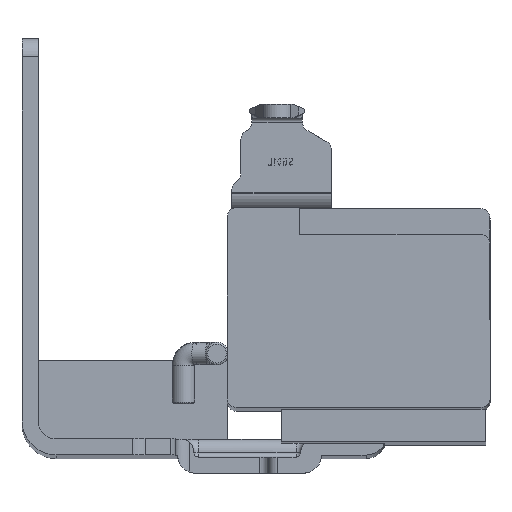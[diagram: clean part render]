
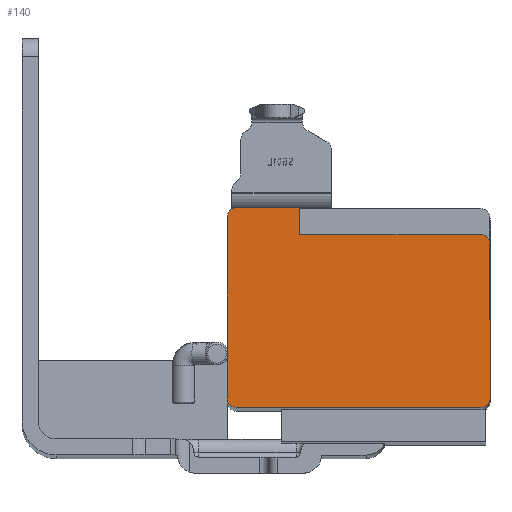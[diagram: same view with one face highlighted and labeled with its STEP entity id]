
A CAD part, top view. The second image highlights one B-rep face of the part: STEP entity #140.
In plain terms, the highlighted planar face has unit normal (0, 0, 1).
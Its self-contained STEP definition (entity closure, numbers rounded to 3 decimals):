
#140 = ADVANCED_FACE ( 'NONE', ( #9531 ), #9857, .T. ) ;
#426 = DIRECTION ( 'NONE',  ( 0., 0., 1. ) ) ;
#500 = EDGE_CURVE ( 'NONE', #1558, #5320, #6891, .T. ) ;
#544 = DIRECTION ( 'NONE',  ( 0., 0., 1. ) ) ;
#662 = VERTEX_POINT ( 'NONE', #3415 ) ;
#1174 = CARTESIAN_POINT ( 'NONE',  ( 30.58, -17.1, 194.3 ) ) ;
#1328 = VERTEX_POINT ( 'NONE', #3452 ) ;
#1558 = VERTEX_POINT ( 'NONE', #7089 ) ;
#1720 = VERTEX_POINT ( 'NONE', #6303 ) ;
#1880 = AXIS2_PLACEMENT_3D ( 'NONE', #8270, #8535, #8629 ) ;
#2007 = DIRECTION ( 'NONE',  ( 1., 0., 0. ) ) ;
#2094 = AXIS2_PLACEMENT_3D ( 'NONE', #9565, #10415, #10454 ) ;
#2095 = ORIENTED_EDGE ( 'NONE', *, *, #500, .T. ) ;
#2223 = VERTEX_POINT ( 'NONE', #2622 ) ;
#2297 = DIRECTION ( 'NONE',  ( 0., -1., 0. ) ) ;
#2393 = CARTESIAN_POINT ( 'NONE',  ( 8.35, 4., 194.3 ) ) ;
#2534 = AXIS2_PLACEMENT_3D ( 'NONE', #5427, #426, #6253 ) ;
#2622 = CARTESIAN_POINT ( 'NONE',  ( 31.58, -17.1, 194.3 ) ) ;
#2658 = AXIS2_PLACEMENT_3D ( 'NONE', #1174, #7021, #2007 ) ;
#2742 = CARTESIAN_POINT ( 'NONE',  ( 30.61, 1., 194.3 ) ) ;
#2754 = ORIENTED_EDGE ( 'NONE', *, *, #6982, .F. ) ;
#2823 = VECTOR ( 'NONE', #6546, 1000. ) ;
#3010 = EDGE_CURVE ( 'NONE', #4626, #1328, #9290, .T. ) ;
#3035 = VERTEX_POINT ( 'NONE', #10027 ) ;
#3415 = CARTESIAN_POINT ( 'NONE',  ( 2.55, 3., 194.3 ) ) ;
#3452 = CARTESIAN_POINT ( 'NONE',  ( 3.55, 4., 194.3 ) ) ;
#3845 = CARTESIAN_POINT ( 'NONE',  ( 10.55, 4., 194.3 ) ) ;
#3877 = LINE ( 'NONE', #7364, #2823 ) ;
#4143 = CARTESIAN_POINT ( 'NONE',  ( 0., -18.1, 194.3 ) ) ;
#4404 = VECTOR ( 'NONE', #5566, 1000. ) ;
#4443 = VERTEX_POINT ( 'NONE', #4728 ) ;
#4446 = EDGE_CURVE ( 'NONE', #662, #3035, #6623, .T. ) ;
#4521 = LINE ( 'NONE', #4143, #9004 ) ;
#4626 = VERTEX_POINT ( 'NONE', #3845 ) ;
#4686 = ORIENTED_EDGE ( 'NONE', *, *, #3010, .T. ) ;
#4710 = AXIS2_PLACEMENT_3D ( 'NONE', #5551, #544, #6382 ) ;
#4728 = CARTESIAN_POINT ( 'NONE',  ( 30.58, -18.1, 194.3 ) ) ;
#5001 = EDGE_CURVE ( 'NONE', #1720, #5320, #7131, .T. ) ;
#5080 = ORIENTED_EDGE ( 'NONE', *, *, #9691, .F. ) ;
#5092 = EDGE_LOOP ( 'NONE', ( #7234, #2754, #5531, #5080, #2095, #8662, #9383, #4686, #10726, #6984 ) ) ;
#5320 = VERTEX_POINT ( 'NONE', #2742 ) ;
#5334 = VERTEX_POINT ( 'NONE', #8655 ) ;
#5365 = LINE ( 'NONE', #5633, #9838 ) ;
#5383 = EDGE_CURVE ( 'NONE', #4443, #2223, #5761, .T. ) ;
#5427 = CARTESIAN_POINT ( 'NONE',  ( 3.55, -17.1, 194.3 ) ) ;
#5531 = ORIENTED_EDGE ( 'NONE', *, *, #5383, .T. ) ;
#5551 = CARTESIAN_POINT ( 'NONE',  ( 3.55, 3., 194.3 ) ) ;
#5566 = DIRECTION ( 'NONE',  ( 0., -1., 0. ) ) ;
#5633 = CARTESIAN_POINT ( 'NONE',  ( 31.58, 0., 194.3 ) ) ;
#5761 = CIRCLE ( 'NONE', #2658, 1. ) ;
#6253 = DIRECTION ( 'NONE',  ( 1., 0., 0. ) ) ;
#6291 = CIRCLE ( 'NONE', #4710, 1. ) ;
#6303 = CARTESIAN_POINT ( 'NONE',  ( 10.55, 1., 194.3 ) ) ;
#6382 = DIRECTION ( 'NONE',  ( 1., 0., 0. ) ) ;
#6542 = DIRECTION ( 'NONE',  ( 1., 0., 0. ) ) ;
#6543 = CIRCLE ( 'NONE', #2534, 1. ) ;
#6546 = DIRECTION ( 'NONE',  ( 0., 1., 0. ) ) ;
#6623 = LINE ( 'NONE', #9744, #4404 ) ;
#6657 = DIRECTION ( 'NONE',  ( -1., 0., 0. ) ) ;
#6879 = VECTOR ( 'NONE', #6542, 1000. ) ;
#6891 = CIRCLE ( 'NONE', #1880, 0.97 ) ;
#6893 = EDGE_CURVE ( 'NONE', #1720, #4626, #3877, .T. ) ;
#6982 = EDGE_CURVE ( 'NONE', #4443, #5334, #4521, .T. ) ;
#6984 = ORIENTED_EDGE ( 'NONE', *, *, #4446, .T. ) ;
#7021 = DIRECTION ( 'NONE',  ( 0., 0., 1. ) ) ;
#7089 = CARTESIAN_POINT ( 'NONE',  ( 31.58, 0.03, 194.3 ) ) ;
#7131 = LINE ( 'NONE', #9933, #6879 ) ;
#7234 = ORIENTED_EDGE ( 'NONE', *, *, #10133, .T. ) ;
#7364 = CARTESIAN_POINT ( 'NONE',  ( 10.55, 1., 194.3 ) ) ;
#8270 = CARTESIAN_POINT ( 'NONE',  ( 30.61, 0.03, 194.3 ) ) ;
#8272 = DIRECTION ( 'NONE',  ( -1., 0., 0. ) ) ;
#8281 = EDGE_CURVE ( 'NONE', #1328, #662, #6291, .T. ) ;
#8535 = DIRECTION ( 'NONE',  ( 0., 0., 1. ) ) ;
#8629 = DIRECTION ( 'NONE',  ( 1., 0., 0. ) ) ;
#8655 = CARTESIAN_POINT ( 'NONE',  ( 3.55, -18.1, 194.3 ) ) ;
#8662 = ORIENTED_EDGE ( 'NONE', *, *, #5001, .F. ) ;
#9004 = VECTOR ( 'NONE', #6657, 1000. ) ;
#9019 = VECTOR ( 'NONE', #8272, 1000. ) ;
#9290 = LINE ( 'NONE', #2393, #9019 ) ;
#9383 = ORIENTED_EDGE ( 'NONE', *, *, #6893, .T. ) ;
#9531 = FACE_OUTER_BOUND ( 'NONE', #5092, .T. ) ;
#9565 = CARTESIAN_POINT ( 'NONE',  ( 0., 0., 194.3 ) ) ;
#9691 = EDGE_CURVE ( 'NONE', #1558, #2223, #5365, .T. ) ;
#9744 = CARTESIAN_POINT ( 'NONE',  ( 2.55, 0., 194.3 ) ) ;
#9838 = VECTOR ( 'NONE', #2297, 1000. ) ;
#9857 = PLANE ( 'NONE',  #2094 ) ;
#9933 = CARTESIAN_POINT ( 'NONE',  ( 0.75, 1., 194.3 ) ) ;
#10027 = CARTESIAN_POINT ( 'NONE',  ( 2.55, -17.1, 194.3 ) ) ;
#10133 = EDGE_CURVE ( 'NONE', #3035, #5334, #6543, .T. ) ;
#10415 = DIRECTION ( 'NONE',  ( 0., 0., 1. ) ) ;
#10454 = DIRECTION ( 'NONE',  ( 1., 0., 0. ) ) ;
#10726 = ORIENTED_EDGE ( 'NONE', *, *, #8281, .T. ) ;
